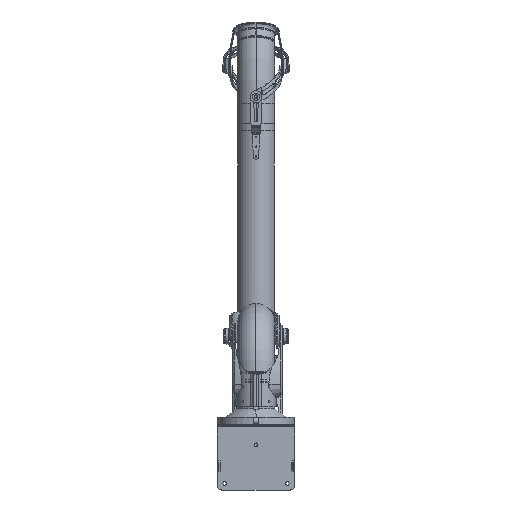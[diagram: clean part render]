
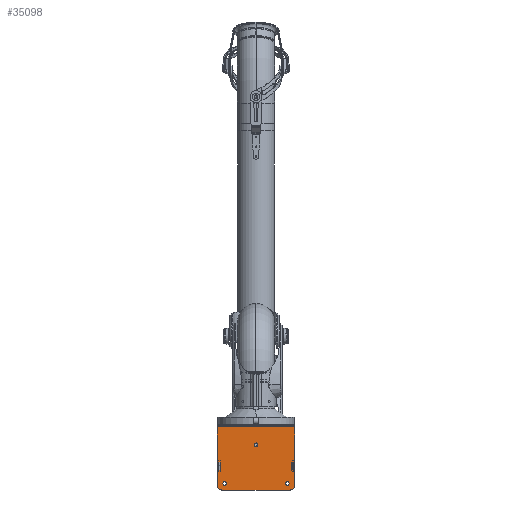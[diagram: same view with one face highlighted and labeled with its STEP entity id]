
A CAD part, front view. The second image highlights one B-rep face of the part: STEP entity #35098.
In plain terms, the highlighted planar face has unit normal (0, -1, 0).
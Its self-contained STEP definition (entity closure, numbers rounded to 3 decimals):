
#34239=CARTESIAN_POINT('',(-105.,0.,-198.));
#34240=DIRECTION('',(0.,1.,0.));
#34241=DIRECTION('',(-1.,0.,0.));
#34242=AXIS2_PLACEMENT_3D('',#34239,#34240,#34241);
#34244=CARTESIAN_POINT('',(-105.,0.,-198.));
#34245=DIRECTION('',(0.,1.,0.));
#34246=DIRECTION('',(1.,0.,0.));
#34247=AXIS2_PLACEMENT_3D('',#34244,#34245,#34246);
#34249=CARTESIAN_POINT('',(105.,0.,-198.));
#34250=DIRECTION('',(0.,1.,0.));
#34251=DIRECTION('',(-1.,0.,0.));
#34252=AXIS2_PLACEMENT_3D('',#34249,#34250,#34251);
#34254=CARTESIAN_POINT('',(105.,0.,-198.));
#34255=DIRECTION('',(0.,1.,0.));
#34256=DIRECTION('',(1.,0.,0.));
#34257=AXIS2_PLACEMENT_3D('',#34254,#34255,#34256);
#34259=CARTESIAN_POINT('',(0.,0.,-68.));
#34260=DIRECTION('',(0.,1.,0.));
#34261=DIRECTION('',(-1.,0.,0.));
#34262=AXIS2_PLACEMENT_3D('',#34259,#34260,#34261);
#34264=CARTESIAN_POINT('',(0.,0.,-68.));
#34265=DIRECTION('',(0.,1.,0.));
#34266=DIRECTION('',(1.,0.,0.));
#34267=AXIS2_PLACEMENT_3D('',#34264,#34265,#34266);
#34269=CARTESIAN_POINT('',(115.,0.,-205.));
#34270=DIRECTION('',(0.,-1.,0.));
#34271=DIRECTION('',(0.,0.,-1.));
#34272=AXIS2_PLACEMENT_3D('',#34269,#34270,#34271);
#34274=CARTESIAN_POINT('',(-115.,0.,-205.));
#34275=DIRECTION('',(0.,-1.,0.));
#34276=DIRECTION('',(-1.,0.,0.));
#34277=AXIS2_PLACEMENT_3D('',#34274,#34275,#34276);
#34279=DIRECTION('',(0.,0.,-1.));
#34280=VECTOR('',#34279,197.);
#34281=CARTESIAN_POINT('',(-130.,0.,-8.));
#34282=LINE('',#34281,#34280);
#34283=DIRECTION('',(0.,0.,-1.));
#34284=VECTOR('',#34283,197.);
#34285=CARTESIAN_POINT('',(130.,0.,-8.));
#34286=LINE('',#34285,#34284);
#34287=DIRECTION('',(-1.,0.,0.));
#34288=VECTOR('',#34287,4.2);
#34289=CARTESIAN_POINT('',(125.1,0.,-154.));
#34290=LINE('',#34289,#34288);
#34291=DIRECTION('',(0.,0.,-1.));
#34292=VECTOR('',#34291,28.);
#34293=CARTESIAN_POINT('',(125.1,0.,-126.));
#34294=LINE('',#34293,#34292);
#34295=DIRECTION('',(1.,0.,0.));
#34296=VECTOR('',#34295,4.2);
#34297=CARTESIAN_POINT('',(120.9,0.,-126.));
#34298=LINE('',#34297,#34296);
#34299=DIRECTION('',(0.,0.,1.));
#34300=VECTOR('',#34299,28.);
#34301=CARTESIAN_POINT('',(120.9,0.,-154.));
#34302=LINE('',#34301,#34300);
#34303=DIRECTION('',(1.,0.,0.));
#34304=VECTOR('',#34303,4.2);
#34305=CARTESIAN_POINT('',(-125.1,0.,-154.));
#34306=LINE('',#34305,#34304);
#34307=DIRECTION('',(0.,0.,1.));
#34308=VECTOR('',#34307,28.);
#34309=CARTESIAN_POINT('',(-120.9,0.,-154.));
#34310=LINE('',#34309,#34308);
#34311=DIRECTION('',(-1.,0.,0.));
#34312=VECTOR('',#34311,4.2);
#34313=CARTESIAN_POINT('',(-120.9,0.,-126.));
#34314=LINE('',#34313,#34312);
#34315=DIRECTION('',(0.,0.,-1.));
#34316=VECTOR('',#34315,28.);
#34317=CARTESIAN_POINT('',(-125.1,0.,-126.));
#34318=LINE('',#34317,#34316);
#34449=DIRECTION('',(1.,0.,0.));
#34450=VECTOR('',#34449,260.);
#34451=CARTESIAN_POINT('',(-130.,0.,-8.));
#34452=LINE('',#34451,#34450);
#34473=DIRECTION('',(1.,0.,0.));
#34474=VECTOR('',#34473,230.);
#34475=CARTESIAN_POINT('',(-115.,0.,-220.));
#34476=LINE('',#34475,#34474);
#34873=CARTESIAN_POINT('',(-130.,0.,-8.));
#34874=VERTEX_POINT('',#34873);
#34875=CARTESIAN_POINT('',(130.,0.,-8.));
#34876=VERTEX_POINT('',#34875);
#34889=CARTESIAN_POINT('',(-111.,0.,-198.));
#34890=CARTESIAN_POINT('',(-99.,0.,-198.));
#34891=VERTEX_POINT('',#34889);
#34892=VERTEX_POINT('',#34890);
#34893=CARTESIAN_POINT('',(99.,0.,-198.));
#34894=CARTESIAN_POINT('',(111.,0.,-198.));
#34895=VERTEX_POINT('',#34893);
#34896=VERTEX_POINT('',#34894);
#34897=CARTESIAN_POINT('',(-6.,0.,-68.));
#34898=CARTESIAN_POINT('',(6.,0.,-68.));
#34899=VERTEX_POINT('',#34897);
#34900=VERTEX_POINT('',#34898);
#34961=CARTESIAN_POINT('',(115.,0.,-220.));
#34962=CARTESIAN_POINT('',(130.,0.,-205.));
#34963=VERTEX_POINT('',#34961);
#34964=VERTEX_POINT('',#34962);
#34969=CARTESIAN_POINT('',(-130.,0.,-205.));
#34970=CARTESIAN_POINT('',(-115.,0.,-220.));
#34971=VERTEX_POINT('',#34969);
#34972=VERTEX_POINT('',#34970);
#34977=CARTESIAN_POINT('',(125.1,0.,-154.));
#34978=CARTESIAN_POINT('',(120.9,0.,-154.));
#34979=VERTEX_POINT('',#34977);
#34980=VERTEX_POINT('',#34978);
#34981=CARTESIAN_POINT('',(120.9,0.,-126.));
#34982=VERTEX_POINT('',#34981);
#34983=CARTESIAN_POINT('',(125.1,0.,-126.));
#34984=VERTEX_POINT('',#34983);
#34993=CARTESIAN_POINT('',(-125.1,0.,-154.));
#34994=CARTESIAN_POINT('',(-120.9,0.,-154.));
#34995=VERTEX_POINT('',#34993);
#34996=VERTEX_POINT('',#34994);
#34997=CARTESIAN_POINT('',(-120.9,0.,-126.));
#34998=VERTEX_POINT('',#34997);
#34999=CARTESIAN_POINT('',(-125.1,0.,-126.));
#35000=VERTEX_POINT('',#34999);
#35041=CARTESIAN_POINT('',(-175.,0.,0.));
#35042=DIRECTION('',(0.,-1.,0.));
#35043=DIRECTION('',(0.,0.,-1.));
#35044=AXIS2_PLACEMENT_3D('',#35041,#35042,#35043);
#35045=PLANE('',#35044);
#35047=ORIENTED_EDGE('',*,*,#35046,.F.);
#35049=ORIENTED_EDGE('',*,*,#35048,.F.);
#35051=ORIENTED_EDGE('',*,*,#35050,.F.);
#35053=ORIENTED_EDGE('',*,*,#35052,.F.);
#35055=ORIENTED_EDGE('',*,*,#35054,.T.);
#35057=ORIENTED_EDGE('',*,*,#35056,.T.);
#35058=EDGE_LOOP('',(#35047,#35049,#35051,#35053,#35055,#35057));
#35059=FACE_OUTER_BOUND('',#35058,.F.);
#35061=ORIENTED_EDGE('',*,*,#35060,.F.);
#35063=ORIENTED_EDGE('',*,*,#35062,.F.);
#35064=EDGE_LOOP('',(#35061,#35063));
#35065=FACE_BOUND('',#35064,.F.);
#35067=ORIENTED_EDGE('',*,*,#35066,.F.);
#35069=ORIENTED_EDGE('',*,*,#35068,.F.);
#35070=EDGE_LOOP('',(#35067,#35069));
#35071=FACE_BOUND('',#35070,.F.);
#35073=ORIENTED_EDGE('',*,*,#35072,.F.);
#35075=ORIENTED_EDGE('',*,*,#35074,.F.);
#35076=EDGE_LOOP('',(#35073,#35075));
#35077=FACE_BOUND('',#35076,.F.);
#35079=ORIENTED_EDGE('',*,*,#35078,.F.);
#35081=ORIENTED_EDGE('',*,*,#35080,.F.);
#35083=ORIENTED_EDGE('',*,*,#35082,.F.);
#35085=ORIENTED_EDGE('',*,*,#35084,.F.);
#35086=EDGE_LOOP('',(#35079,#35081,#35083,#35085));
#35087=FACE_BOUND('',#35086,.F.);
#35089=ORIENTED_EDGE('',*,*,#35088,.T.);
#35091=ORIENTED_EDGE('',*,*,#35090,.T.);
#35093=ORIENTED_EDGE('',*,*,#35092,.T.);
#35095=ORIENTED_EDGE('',*,*,#35094,.T.);
#35096=EDGE_LOOP('',(#35089,#35091,#35093,#35095));
#35097=FACE_BOUND('',#35096,.F.);
#34243=CIRCLE('',#34242,6.);
#34248=CIRCLE('',#34247,6.);
#34253=CIRCLE('',#34252,6.);
#34258=CIRCLE('',#34257,6.);
#34263=CIRCLE('',#34262,6.);
#34268=CIRCLE('',#34267,6.);
#34273=CIRCLE('',#34272,15.);
#34278=CIRCLE('',#34277,15.);
#35046=EDGE_CURVE('',#34963,#34964,#34273,.T.);
#35048=EDGE_CURVE('',#34972,#34963,#34476,.T.);
#35050=EDGE_CURVE('',#34971,#34972,#34278,.T.);
#35052=EDGE_CURVE('',#34874,#34971,#34282,.T.);
#35054=EDGE_CURVE('',#34874,#34876,#34452,.T.);
#35056=EDGE_CURVE('',#34876,#34964,#34286,.T.);
#35060=EDGE_CURVE('',#34895,#34896,#34253,.T.);
#35062=EDGE_CURVE('',#34896,#34895,#34258,.T.);
#35066=EDGE_CURVE('',#34899,#34900,#34263,.T.);
#35068=EDGE_CURVE('',#34900,#34899,#34268,.T.);
#35072=EDGE_CURVE('',#34891,#34892,#34243,.T.);
#35074=EDGE_CURVE('',#34892,#34891,#34248,.T.);
#35078=EDGE_CURVE('',#34979,#34980,#34290,.T.);
#35080=EDGE_CURVE('',#34984,#34979,#34294,.T.);
#35082=EDGE_CURVE('',#34982,#34984,#34298,.T.);
#35084=EDGE_CURVE('',#34980,#34982,#34302,.T.);
#35088=EDGE_CURVE('',#34995,#34996,#34306,.T.);
#35090=EDGE_CURVE('',#34996,#34998,#34310,.T.);
#35092=EDGE_CURVE('',#34998,#35000,#34314,.T.);
#35094=EDGE_CURVE('',#35000,#34995,#34318,.T.);
#35098=ADVANCED_FACE('',(#35059,#35065,#35071,#35077,#35087,#35097),#35045,.T.);
